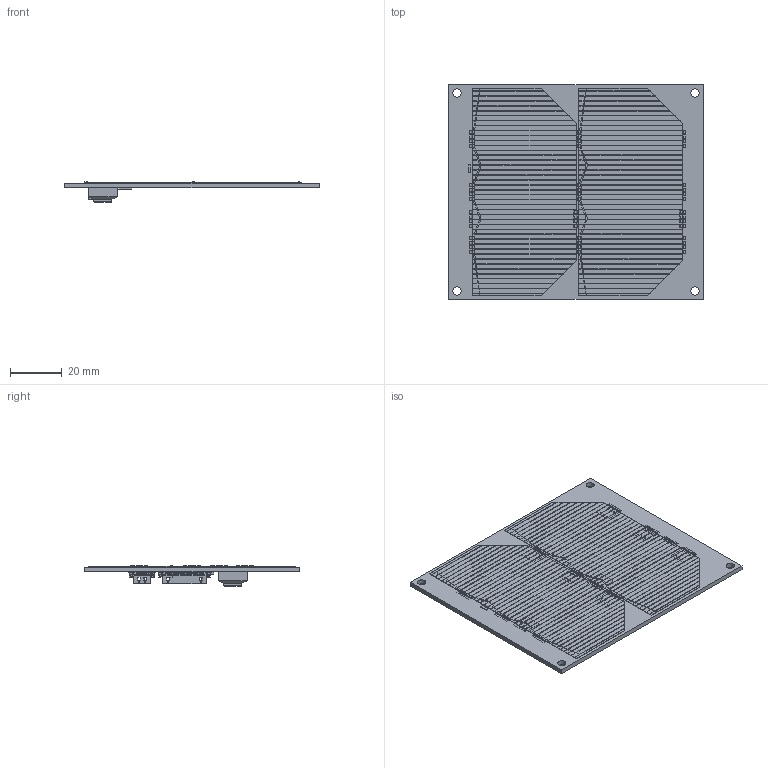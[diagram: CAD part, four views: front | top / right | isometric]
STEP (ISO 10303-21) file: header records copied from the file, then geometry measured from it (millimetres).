
FILE_DESCRIPTION(('Open CASCADE Model'),'2;1');
FILE_NAME('Open CASCADE Shape Model','2013-04-16T10:26:13',('Author'),( 'Open CASCADE'),'Open CASCADE STEP processor 6.2','Open CASCADE 6.2' ,'Unknown');
FILE_SCHEMA(('AUTOMOTIVE_DESIGN { 1 0 10303 214 1 1 1 1 }'));
Length unit declared in the file: millimetre
Products named in the file (41): PCB; Board; S2; 533980471; Open CASCADE STEP translator 6.2 6.2.1.1; Open CASCADE STEP translator 6.2 6.2.1.2; C2; 421952544; Extruded; C1; 421952672; U1; 421952416; PV5; 3G30C-cathode; 3G28-base; 3G30C; covar-tab; covar-tab_1; covar-tab_2; PV4; 3G30C-anode; D3; 421952288; D1; sunsensor; H2; 533981271; Open CASCADE STEP translator 6.2 6.10.1.1; Open CASCADE STEP translator 6.2 6.10.1.2; *; U2; adis16251
Assembly tree (47 placements, depth 4):
  PCB
    Board
    S2
      533980471
        Open CASCADE STEP translator 6.2 6.2.1.1
        Open CASCADE STEP translator 6.2 6.2.1.2
    C2
      421952544
        Extruded
    C1
      421952672
        Extruded
    U1
      421952416
        Extruded
    PV5
      3G30C-cathode
        3G28-base
        3G30C
        covar-tab
        covar-tab_1
        covar-tab_2
        covar-tab  x2
    PV4
      3G30C-anode
        3G28-base
        3G30C
        covar-tab  x6
        covar-tab_1
    D3
      421952288
        Extruded
    D1
      sunsensor
    H2
      533981271
        Open CASCADE STEP translator 6.2 6.10.1.1
        Open CASCADE STEP translator 6.2 6.10.1.2
    *
      533980471
        Open CASCADE STEP translator 6.2 6.2.1.1
        Open CASCADE STEP translator 6.2 6.2.1.2
    U2
      adis16251
Bounding box: 98 x 82.6 x 7.77 mm (x, y, z)
Volume: 16460.7 mm3; surface area: 32967.8 mm2
Topology: 38 solids, 38 shells, 2624 faces, 7396 edges, 5038 vertices
Faces by surface type: plane 2244, cylinder 380
Full cylindrical faces by diameter (mm): 3.2 x4
Entity records: 132729 total; most frequent: CARTESIAN_POINT 27008, DIRECTION 19097, LINE 14259, VECTOR 14259, ORIENTED_EDGE 10470, PCURVE 10470, DEFINITIONAL_REPRESENTATION 10470, EDGE_CURVE 5235
